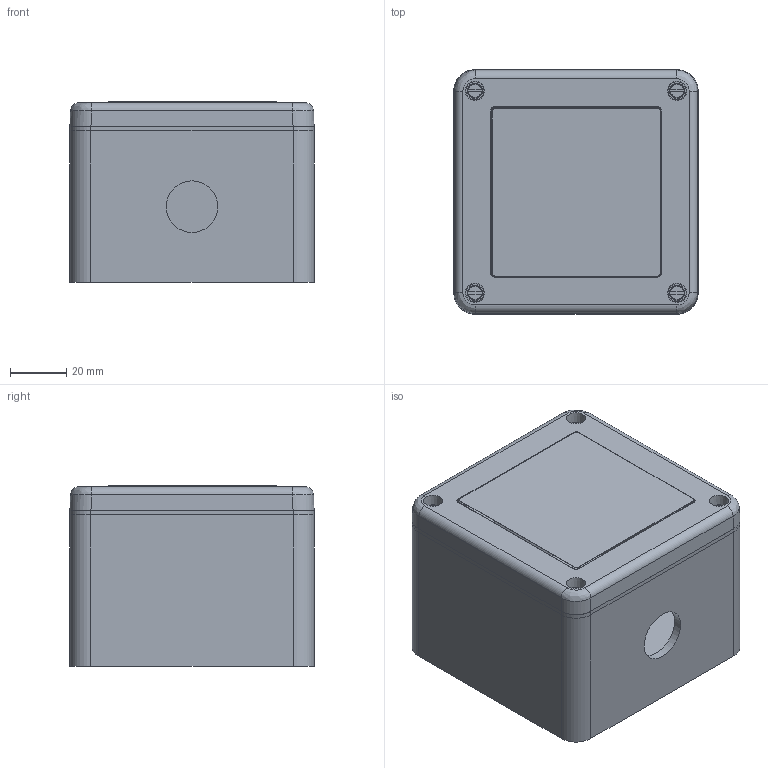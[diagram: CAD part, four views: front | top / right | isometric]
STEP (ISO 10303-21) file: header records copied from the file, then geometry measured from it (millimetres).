
FILE_DESCRIPTION(/* description */ ('','CAx-IF Rec.Pracs.---Representation and Presentation of Product Manufacturing Information (PMI)---4.0---2014-10-13'),/* implementation_level */ '2;1');
FILE_NAME(/* name */ 'R53196-3.stp',/* time_stamp */ '2024-08-20T11:14:23+02:00',/* author */ ('leo.zschokke'),/* organization */ (''),/* preprocessor_version */ 'ST-DEVELOPER v19.2',/* originating_system */ 'Autodesk Inventor 2023',/* authorisation */ '');
FILE_SCHEMA (('AP242_MANAGED_MODEL_BASED_3D_ENGINEERING_MIM_LF { 1 0 10303 442 1 1 4 }'));
Length unit declared in the file: millimetre
Products named in the file (1): R53196-3_Vereinfachen_1
Bounding box: 87 x 87 x 64.45 mm (x, y, z)
Volume: 101266.7 mm3; surface area: 86187 mm2
Topology: 8 solids, 8 shells, 484 faces, 1255 edges, 793 vertices
Faces by surface type: plane 210, cylinder 142, cone 60, bspline 40, torus 24, sphere 8
Full cylindrical faces by diameter (mm): 2.3 x4, 3 x12, 3.2 x4, 5 x2, 8 x4, 11 x2, 18.376 x1
Entity records: 16912 total; most frequent: CARTESIAN_POINT 4422, DIRECTION 2518, ORIENTED_EDGE 2478, EDGE_CURVE 1239, AXIS2_PLACEMENT_3D 926, VERTEX_POINT 793, LINE 666, VECTOR 666
